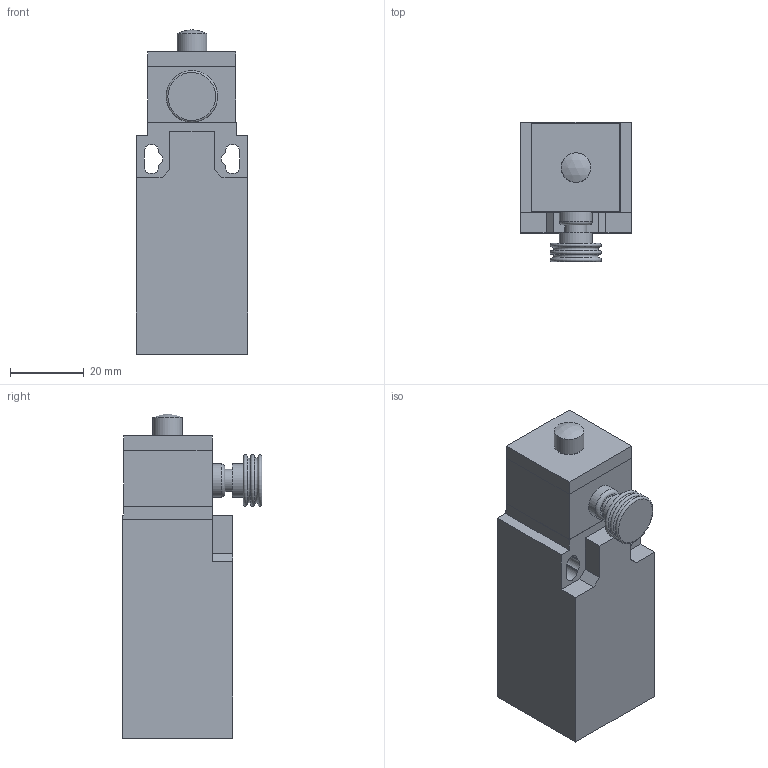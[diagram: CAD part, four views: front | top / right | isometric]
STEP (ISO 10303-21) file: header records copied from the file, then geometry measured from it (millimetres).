
FILE_DESCRIPTION((''),'2;1');
FILE_NAME('C:\Workarea\Disegni\Comepi\Catalogo\Stp\Finecorsa\AP1-R11.stp','2011-08-29T11:39:31',('Paolo'),(''),'Autodesk Inventor 2012','Autodesk Inventor 2012','');
FILE_SCHEMA(('AUTOMOTIVE_DESIGN { 1 0 10303 214 1 1 1 1 }'));
Length unit declared in the file: millimetre
Products named in the file (6): AP1-R11; AP1; R11; R; T10_1; T10_2
Assembly tree (5 placements, depth 3):
  AP1-R11
    AP1
    R11
      R
      T10_1
      T10_2
Bounding box: 30.3 x 37.9 x 88.1 mm (x, y, z)
Volume: 61196.9 mm3; surface area: 16255.5 mm2
Topology: 4 solids, 4 shells, 63 faces, 145 edges, 95 vertices
Faces by surface type: plane 44, cylinder 12, torus 6, sphere 1
Full cylindrical faces by diameter (mm): 6 x1, 8 x2, 9 x2, 20.4 x1
Entity records: 1916 total; most frequent: DIRECTION 312, CARTESIAN_POINT 302, ORIENTED_EDGE 266, EDGE_CURVE 133, AXIS2_PLACEMENT_3D 105, VECTOR 102, LINE 102, VERTEX_POINT 95
